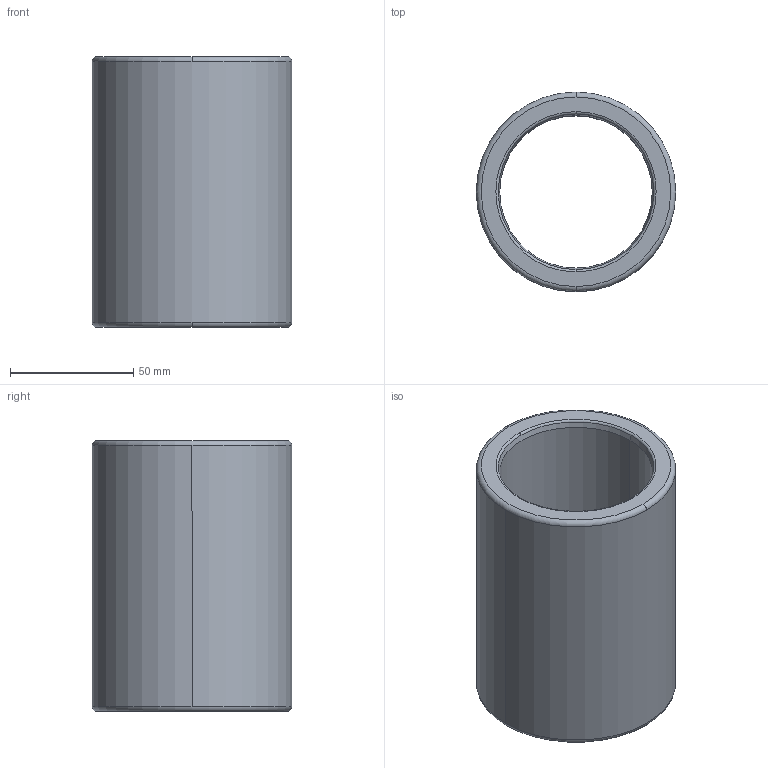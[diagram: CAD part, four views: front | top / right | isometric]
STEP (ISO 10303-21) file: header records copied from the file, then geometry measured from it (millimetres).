
FILE_DESCRIPTION((''),'2;1');
FILE_NAME('B30_050_110.stp','2009-01-12T10:56:46',(''),(''),'Mechanical Desktop 2009','Mechanical Desktop 2009',', , ');
FILE_SCHEMA(('CONFIG_CONTROL_DESIGN'));
Length unit declared in the file: millimetre
Products named in the file (2): Product; blmdl1
Assembly tree (1 placements, depth 2):
  Product
    blmdl1
Bounding box: 80.98 x 80.98 x 110 mm (x, y, z)
Volume: 233975.3 mm3; surface area: 52878 mm2
Topology: 1 solids, 1 shells, 18 faces, 48 edges, 32 vertices
Faces by surface type: torus 8, cylinder 4, cone 4, plane 2
Entity records: 705 total; most frequent: DIRECTION 128, CARTESIAN_POINT 100, ORIENTED_EDGE 96, AXIS2_PLACEMENT_3D 60, EDGE_CURVE 48, CIRCLE 40, VERTEX_POINT 32, EDGE_LOOP 20
